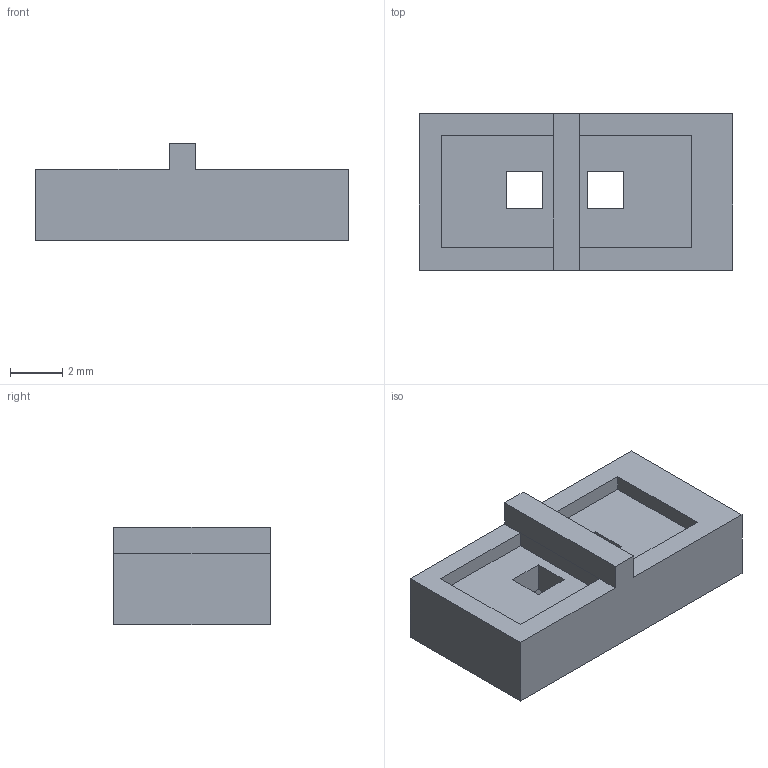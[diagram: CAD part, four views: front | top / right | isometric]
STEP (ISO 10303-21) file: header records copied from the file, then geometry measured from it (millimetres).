
FILE_DESCRIPTION(('Open CASCADE Model'),'2;1');
FILE_NAME('Open CASCADE Shape Model','2018-03-02T16:25:17',('Author'),( 'Open CASCADE'),'Open CASCADE STEP processor 6.3','Open CASCADE 6.3' ,'Unknown');
FILE_SCHEMA(('AUTOMOTIVE_DESIGN_CC2 { 1 2 10303 214 -1 1 5 4 }'));
Length unit declared in the file: millimetre
Products named in the file (1): Open CASCADE STEP translator 6.3 61
Bounding box: 12 x 6 x 3.75 mm (x, y, z)
Volume: 163.3 mm3; surface area: 308.2 mm2
Topology: 1 solids, 1 shells, 67 faces, 166 edges, 102 vertices
Faces by surface type: plane 67
Entity records: 4036 total; most frequent: CARTESIAN_POINT 720, DIRECTION 582, LINE 446, VECTOR 446, ORIENTED_EDGE 332, PCURVE 332, DEFINITIONAL_REPRESENTATION 332, EDGE_CURVE 166
